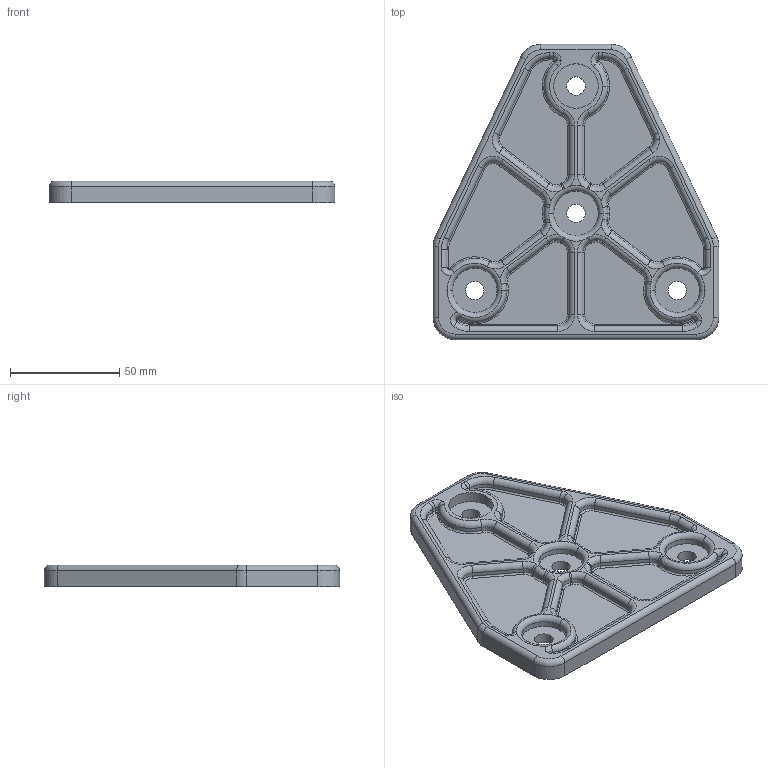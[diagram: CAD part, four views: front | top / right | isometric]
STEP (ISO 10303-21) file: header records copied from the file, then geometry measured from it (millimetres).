
FILE_DESCRIPTION (( 'STEP AP203' ), '1' );
FILE_NAME ('T brace.STEP', '2017-10-24T20:04:08', ( '' ), ( '' ), 'SwSTEP 2.0', 'SolidWorks 2016', '' );
FILE_SCHEMA (( 'CONFIG_CONTROL_DESIGN' ));
Length unit declared in the file: inch
Products named in the file (1): T brace
Bounding box: 130.56 x 134.92 x 9.84 mm (x, y, z)
Volume: 89795.2 mm3; surface area: 35928.7 mm2
Topology: 1 solids, 1 shells, 298 faces, 721 edges, 427 vertices
Faces by surface type: torus 128, cylinder 128, plane 42
Entity records: 8935 total; most frequent: DIRECTION 1782, CARTESIAN_POINT 1550, ORIENTED_EDGE 1442, AXIS2_PLACEMENT_3D 785, EDGE_CURVE 721, CIRCLE 486, VERTEX_POINT 427, EDGE_LOOP 308
